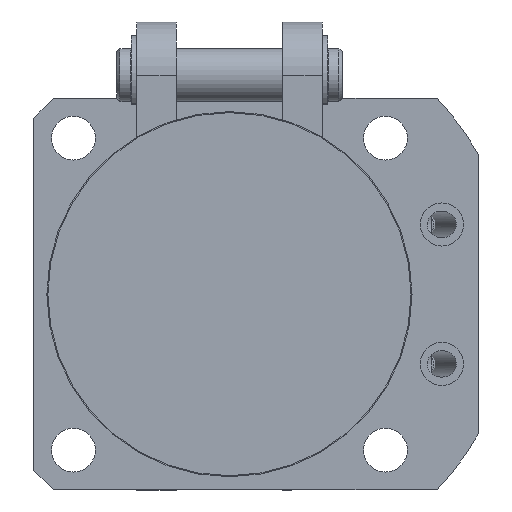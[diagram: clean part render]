
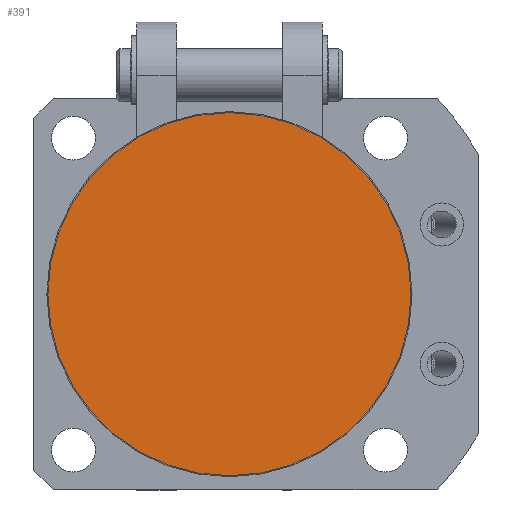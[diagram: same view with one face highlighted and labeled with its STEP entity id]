
A CAD part, front view. The second image highlights one B-rep face of the part: STEP entity #391.
In plain terms, the highlighted planar face has unit normal (0, -1, 0).
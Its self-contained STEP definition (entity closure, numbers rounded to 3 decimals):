
#391 = ADVANCED_FACE( '', ( #771 ), #772, .T. );
#771 = FACE_OUTER_BOUND( '', #1433, .T. );
#772 = PLANE( '', #1434 );
#1433 = EDGE_LOOP( '', ( #2386 ) );
#1434 = AXIS2_PLACEMENT_3D( '', #2387, #2388, #2389 );
#2386 = ORIENTED_EDGE( '', *, *, #4223, .T. );
#2387 = CARTESIAN_POINT( '', ( 0., -57., 0. ) );
#2388 = DIRECTION( '', ( 0., -1., 0. ) );
#2389 = DIRECTION( '', ( -1., 0., 0. ) );
#4223 = EDGE_CURVE( '', #5007, #5007, #5008, .T. );
#5007 = VERTEX_POINT( '', #6439 );
#5008 = CIRCLE( '', #6440, 27.35 );
#6439 = CARTESIAN_POINT( '', ( 27.35, -57., 0. ) );
#6440 = AXIS2_PLACEMENT_3D( '', #7768, #7769, #7770 );
#7768 = CARTESIAN_POINT( '', ( 0., -57., 0. ) );
#7769 = DIRECTION( '', ( 0., -1., 0. ) );
#7770 = DIRECTION( '', ( 1., 0., 0. ) );
